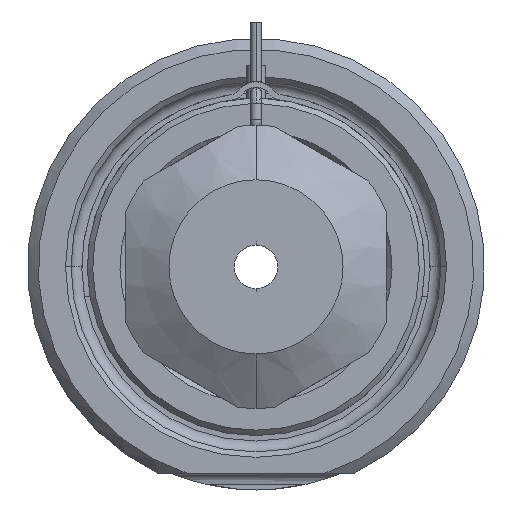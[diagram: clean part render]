
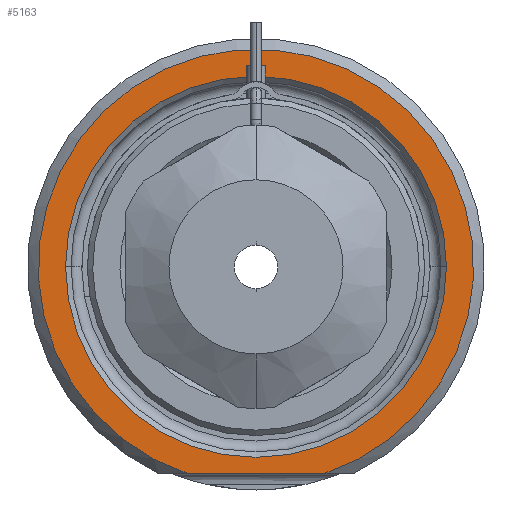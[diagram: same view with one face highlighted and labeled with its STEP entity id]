
A CAD part, front view. The second image highlights one B-rep face of the part: STEP entity #5163.
In plain terms, the highlighted planar face has unit normal (0, -1, 0).
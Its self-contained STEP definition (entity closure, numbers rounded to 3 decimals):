
#1633=DIRECTION('',(1.,0.,0.));
#1634=VECTOR('',#1633,12.49);
#1635=CARTESIAN_POINT('',(-6.245,0.,-19.));
#1636=LINE('',#1635,#1634);
#1637=CARTESIAN_POINT('',(0.,0.,0.));
#1638=DIRECTION('',(0.,1.,0.));
#1639=DIRECTION('',(-1.,0.,0.));
#1640=AXIS2_PLACEMENT_3D('',#1637,#1638,#1639);
#1642=CARTESIAN_POINT('',(0.,0.,0.));
#1643=DIRECTION('',(0.,1.,0.));
#1644=DIRECTION('',(1.,0.,0.));
#1645=AXIS2_PLACEMENT_3D('',#1642,#1643,#1644);
#1751=CARTESIAN_POINT('',(0.,0.,0.));
#1752=DIRECTION('',(0.,-1.,0.));
#1753=DIRECTION('',(0.312,0.,-0.95));
#1754=AXIS2_PLACEMENT_3D('',#1751,#1752,#1753);
#2764=CARTESIAN_POINT('',(-17.5,0.,0.));
#2765=CARTESIAN_POINT('',(17.5,0.,0.));
#2766=VERTEX_POINT('',#2764);
#2767=VERTEX_POINT('',#2765);
#2822=CARTESIAN_POINT('',(-6.245,0.,-19.));
#2823=CARTESIAN_POINT('',(6.245,0.,-19.));
#2824=VERTEX_POINT('',#2822);
#2825=VERTEX_POINT('',#2823);
#5147=CARTESIAN_POINT('',(0.,0.,0.));
#5148=DIRECTION('',(0.,-1.,0.));
#5149=DIRECTION('',(1.,0.,0.));
#5150=AXIS2_PLACEMENT_3D('',#5147,#5148,#5149);
#5151=PLANE('',#5150);
#5153=ORIENTED_EDGE('',*,*,#5152,.F.);
#5155=ORIENTED_EDGE('',*,*,#5154,.F.);
#5156=EDGE_LOOP('',(#5153,#5155));
#5157=FACE_OUTER_BOUND('',#5156,.F.);
#5158=ORIENTED_EDGE('',*,*,#5137,.F.);
#5160=ORIENTED_EDGE('',*,*,#5159,.F.);
#5161=EDGE_LOOP('',(#5158,#5160));
#5162=FACE_BOUND('',#5161,.F.);
#5163=ADVANCED_FACE('',(#5157,#5162),#5151,.T.);
#1641=CIRCLE('',#1640,17.5);
#1646=CIRCLE('',#1645,17.5);
#1755=CIRCLE('',#1754,20.);
#5137=EDGE_CURVE('',#2766,#2767,#1641,.T.);
#5152=EDGE_CURVE('',#2824,#2825,#1636,.T.);
#5154=EDGE_CURVE('',#2825,#2824,#1755,.T.);
#5159=EDGE_CURVE('',#2767,#2766,#1646,.T.);
